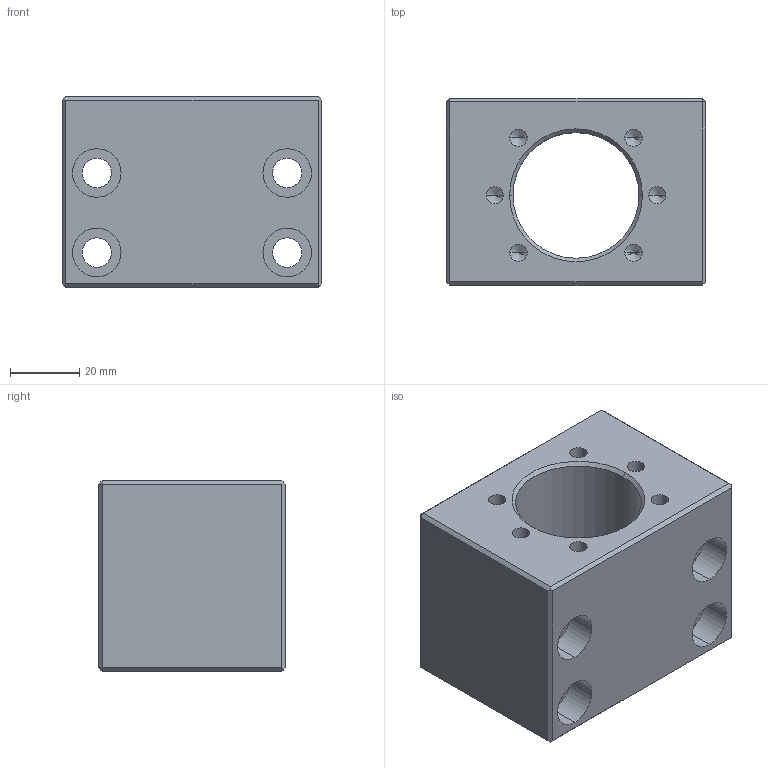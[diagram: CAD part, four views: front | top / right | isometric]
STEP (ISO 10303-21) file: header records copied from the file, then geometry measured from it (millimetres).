
FILE_DESCRIPTION (( 'STEP AP203' ), '1' );
FILE_NAME ('歐式螺帽座GFD-20.STEP', '2016-12-01T11:08:41', ( '' ), ( '' ), 'SwSTEP 2.0', 'SolidWorks 2016', '' );
FILE_SCHEMA (( 'CONFIG_CONTROL_DESIGN' ));
Length unit declared in the file: millimetre
Products named in the file (1): 歐式螺帽座GFD-20
Bounding box: 75 x 54 x 55 mm (x, y, z)
Volume: 147455 mm3; surface area: 33302.9 mm2
Topology: 1 solids, 1 shells, 72 faces, 170 edges, 98 vertices
Faces by surface type: cylinder 30, plane 26, cone 16
Entity records: 2067 total; most frequent: DIRECTION 368, CARTESIAN_POINT 329, ORIENTED_EDGE 316, EDGE_CURVE 158, AXIS2_PLACEMENT_3D 137, VERTEX_POINT 98, VECTOR 94, LINE 94
